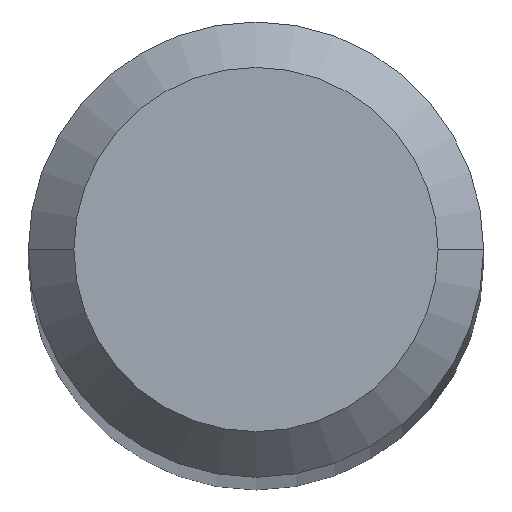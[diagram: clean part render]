
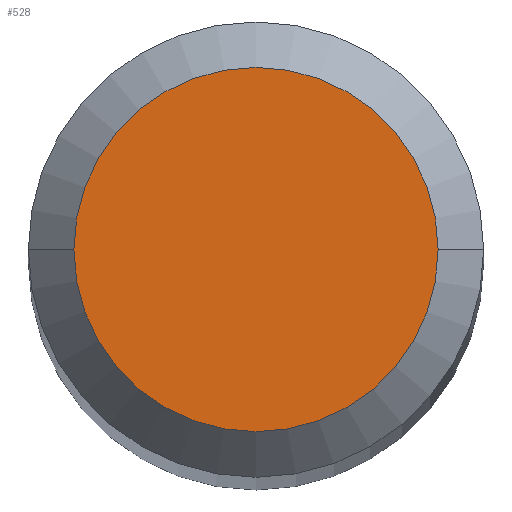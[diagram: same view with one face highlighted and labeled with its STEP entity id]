
A CAD part, top view. The second image highlights one B-rep face of the part: STEP entity #528.
In plain terms, the highlighted planar face has unit normal (0, 0, 1).
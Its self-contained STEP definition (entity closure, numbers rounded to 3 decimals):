
#1 = DIRECTION ( 'NONE',  ( -1., 0., 0. ) ) ;
#15 = CARTESIAN_POINT ( 'NONE',  ( -1.2, 0., 0. ) ) ;
#17 = ORIENTED_EDGE ( 'NONE', *, *, #502, .F. ) ;
#36 = AXIS2_PLACEMENT_3D ( 'NONE', #601, #299, #489 ) ;
#93 = EDGE_LOOP ( 'NONE', ( #257, #17 ) ) ;
#96 = CIRCLE ( 'NONE', #331, 1.2 ) ;
#158 = FACE_OUTER_BOUND ( 'NONE', #93, .T. ) ;
#246 = DIRECTION ( 'NONE',  ( 0., 0., -1. ) ) ;
#257 = ORIENTED_EDGE ( 'NONE', *, *, #372, .F. ) ;
#299 = DIRECTION ( 'NONE',  ( 0., 0., -1. ) ) ;
#305 = CARTESIAN_POINT ( 'NONE',  ( 0., 1.2, 0. ) ) ;
#331 = AXIS2_PLACEMENT_3D ( 'NONE', #338, #246, #1 ) ;
#338 = CARTESIAN_POINT ( 'NONE',  ( 0., 0., 0. ) ) ;
#372 = EDGE_CURVE ( 'NONE', #508, #596, #96, .T. ) ;
#379 = AXIS2_PLACEMENT_3D ( 'NONE', #305, #398, #524 ) ;
#392 = CARTESIAN_POINT ( 'NONE',  ( 1.2, 0., 0. ) ) ;
#398 = DIRECTION ( 'NONE',  ( 0., 0., 1. ) ) ;
#489 = DIRECTION ( 'NONE',  ( -1., 0., 0. ) ) ;
#502 = EDGE_CURVE ( 'NONE', #596, #508, #567, .T. ) ;
#508 = VERTEX_POINT ( 'NONE', #15 ) ;
#524 = DIRECTION ( 'NONE',  ( 1., 0., 0. ) ) ;
#528 = ADVANCED_FACE ( 'NONE', ( #158 ), #540, .T. ) ;
#540 = PLANE ( 'NONE',  #379 ) ;
#567 = CIRCLE ( 'NONE', #36, 1.2 ) ;
#596 = VERTEX_POINT ( 'NONE', #392 ) ;
#601 = CARTESIAN_POINT ( 'NONE',  ( 0., 0., 0. ) ) ;
